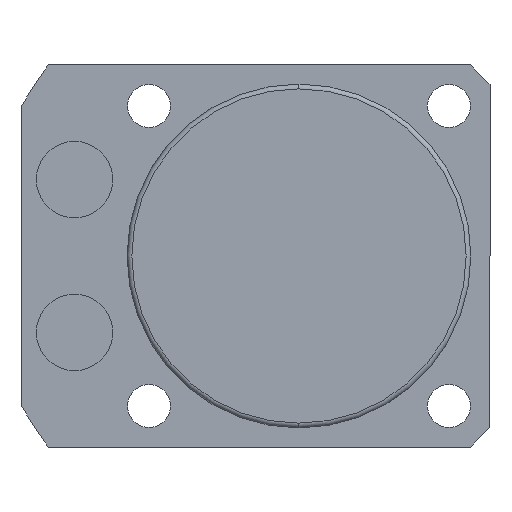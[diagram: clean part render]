
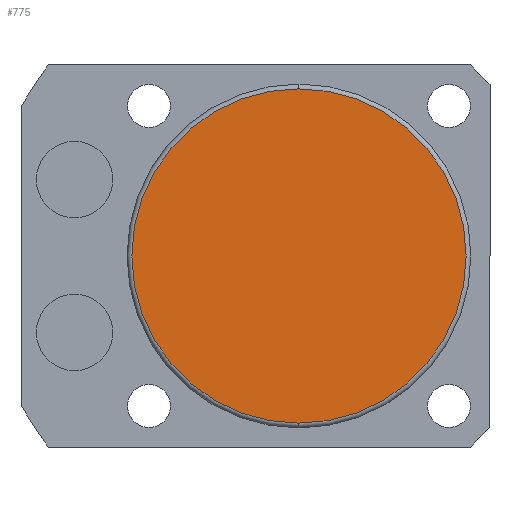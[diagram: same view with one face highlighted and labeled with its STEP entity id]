
A CAD part, front view. The second image highlights one B-rep face of the part: STEP entity #775.
In plain terms, the highlighted planar face has unit normal (0, -1, 0).
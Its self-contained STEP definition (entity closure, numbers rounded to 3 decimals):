
#313 = VERTEX_POINT ( 'NONE', #2150 ) ;
#537 = EDGE_LOOP ( 'NONE', ( #1897, #4419 ) ) ;
#707 = VERTEX_POINT ( 'NONE', #820 ) ;
#750 = AXIS2_PLACEMENT_3D ( 'NONE', #1012, #4921, #4584 ) ;
#775 = ADVANCED_FACE ( 'NONE', ( #1769 ), #4087, .T. ) ;
#820 = CARTESIAN_POINT ( 'NONE',  ( 0., -95.5, 17.5 ) ) ;
#891 = EDGE_CURVE ( 'NONE', #707, #313, #3566, .T. ) ;
#1012 = CARTESIAN_POINT ( 'NONE',  ( 0., -95.5, 0. ) ) ;
#1342 = AXIS2_PLACEMENT_3D ( 'NONE', #2988, #2213, #3361 ) ;
#1769 = FACE_OUTER_BOUND ( 'NONE', #537, .T. ) ;
#1897 = ORIENTED_EDGE ( 'NONE', *, *, #3613, .T. ) ;
#2119 = DIRECTION ( 'NONE',  ( 0., -1., 0. ) ) ;
#2150 = CARTESIAN_POINT ( 'NONE',  ( 0., -95.5, -17.5 ) ) ;
#2213 = DIRECTION ( 'NONE',  ( 0., -1., 0. ) ) ;
#2851 = DIRECTION ( 'NONE',  ( 0., 0., -1. ) ) ;
#2988 = CARTESIAN_POINT ( 'NONE',  ( 0., -95.5, 0. ) ) ;
#3070 = AXIS2_PLACEMENT_3D ( 'NONE', #4459, #2119, #2851 ) ;
#3361 = DIRECTION ( 'NONE',  ( 0., 0., -1. ) ) ;
#3566 = CIRCLE ( 'NONE', #1342, 17.5 ) ;
#3613 = EDGE_CURVE ( 'NONE', #313, #707, #4411, .T. ) ;
#4087 = PLANE ( 'NONE',  #3070 ) ;
#4411 = CIRCLE ( 'NONE', #750, 17.5 ) ;
#4419 = ORIENTED_EDGE ( 'NONE', *, *, #891, .T. ) ;
#4459 = CARTESIAN_POINT ( 'NONE',  ( 0., -95.5, 0. ) ) ;
#4584 = DIRECTION ( 'NONE',  ( 0., 0., -1. ) ) ;
#4921 = DIRECTION ( 'NONE',  ( 0., -1., 0. ) ) ;
